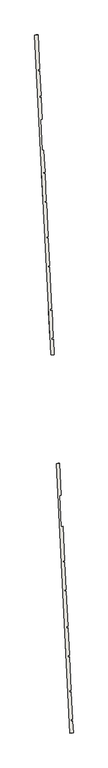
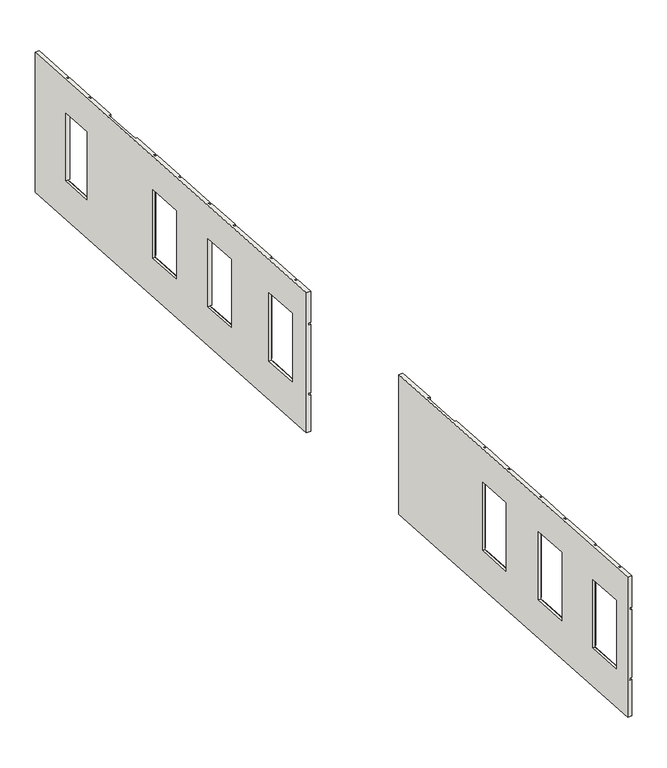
"""IFC4 building model written with IfcOpenShell, lengths in millimetres: wall geometry, kamposite8 : kamposite."""

from ifc_helpers import new_model, si_unit, origin, place, context, project, spatial, faceted_brep, source, transform, mapped, element, save


def wall_72c79ef7(model_context):
    return source(origin(), model_context, "Body", "Brep", [
        faceted_brep([(13372.7715568, -13203.3324529, 20000.0), (13353.306831, -12820.9275904, 20000.0), (13353.306831, -12820.9275904, 20911.5733633), (13372.7715568, -13203.3324529, 20911.5733633), (13353.306831, -12820.9275904, 23500.0), (13372.7715568, -13203.3324529, 23500.0), (13372.7715568, -13203.3324529, 22720.5733633), (13353.306831, -12820.9275904, 22720.5733633), (13094.4833823, -7736.0706906, 23500.0), (13139.1735864, -8614.0564136, 23500.0), (13139.1735864, -8614.0564136, 22720.5733633), (13094.4833823, -7736.0706906, 22720.5733633), (13141.7153374, -8663.9917669, 23500.0), (13199.2035253, -9793.4072435, 23500.0), (13199.2035253, -9793.4072435, 22720.5733633), (13141.7153374, -8663.9917669, 22720.5733633), (13201.7452764, -9843.3425967, 23500.0), (13246.4354805, -10721.3283197, 23500.0), (13246.4354805, -10721.3283197, 22720.5733633), (13201.7452764, -9843.3425967, 22720.5733633), (13248.9772315, -10771.2636729, 23500.0), (13303.5331248, -11843.0711609, 23500.0), (13303.5331248, -11843.0711609, 22720.5733633), (13248.9772315, -10771.2636729, 22720.5733633), (13306.0748759, -11893.0065142, 23500.0), (13350.76508, -12770.9922372, 23500.0), (13350.76508, -12770.9922372, 22720.5733633), (13306.0748759, -11893.0065142, 22720.5733633), (13139.1735864, -8614.0564136, 20000.0), (13094.4833823, -7736.0706906, 20000.0), (13094.4833823, -7736.0706906, 20911.5733633), (13139.1735864, -8614.0564136, 20911.5733633), (13199.2035253, -9793.4072435, 20000.0), (13141.7153374, -8663.9917669, 20000.0), (13141.7153374, -8663.9917669, 20911.5733633), (13199.2035253, -9793.4072435, 20911.5733633), (13246.4354805, -10721.3283197, 20000.0), (13201.7452764, -9843.3425967, 20000.0), (13201.7452764, -9843.3425967, 20911.5733633), (13246.4354805, -10721.3283197, 20911.5733633), (13303.5331248, -11843.0711609, 20000.0), (13248.9772315, -10771.2636729, 20000.0), (13248.9772315, -10771.2636729, 20911.5733633), (13303.5331248, -11843.0711609, 20911.5733633), (13350.76508, -12770.9922372, 20000.0), (13306.0748759, -11893.0065142, 20000.0), (13306.0748759, -11893.0065142, 20911.5733633), (13350.76508, -12770.9922372, 20911.5733633), (13350.6602996, -12768.9337164, 22670.0), (13306.0748759, -11893.0065142, 22670.0), (13306.0748759, -11893.0065142, 22670.5733633), (13350.76508, -12770.9922372, 22670.5733633), (13350.76508, -12770.9922372, 20961.5733633), (13350.6602996, -12768.9337164, 20961.5733633), (13246.4354805, -10721.3283197, 22670.0), (13201.7452764, -9843.3425967, 22670.0), (13201.7452764, -9843.3425967, 22670.5733633), (13246.4354805, -10721.3283197, 22670.5733633), (13139.1735864, -8614.0564136, 22670.0), (13094.4833823, -7736.0706906, 22670.0), (13094.4833823, -7736.0706906, 22670.5733633), (13139.1735864, -8614.0564136, 22670.5733633), (12933.6170031, -4575.6827045, 20000.0), (12933.6170031, -4575.6827045, 20911.5733633), (12985.7398324, -5599.6901091, 20911.5733633), (12985.7398324, -5599.6901091, 20000.0), (12933.6170031, -4575.6827045, 22720.5733633), (12933.6170031, -4575.6827045, 23500.0), (12985.7398324, -5599.6901091, 23500.0), (12985.7398324, -5599.6901091, 22720.5733633), (12933.6170031, -4575.6827045, 20961.5733633), (12933.6170031, -4575.6827045, 22670.5733633), (12985.7398324, -5599.6901091, 22670.5733633), (12985.7398324, -5599.6901091, 20961.5733633), (13091.9416312, -7686.1353374, 20911.5733633), (13091.9416312, -7686.1353374, 20000.0), (13036.3776474, -6594.5228575, 20000.0), (13036.3776474, -6594.5228575, 20911.5733633), (13091.9416312, -7686.1353374, 23500.0), (13091.9416312, -7686.1353374, 22720.5733633), (13036.3776474, -6594.5228575, 22720.5733633), (13036.3776474, -6594.5228575, 23500.0), (13091.9416312, -7686.1353374, 22670.5733633), (13091.9416312, -7686.1353374, 20961.5733633), (13036.3776474, -6594.5228575, 20961.5733633), (13036.3776474, -6594.5228575, 22670.5733633), (13199.2035253, -9793.4072435, 22670.5733633), (13199.2035253, -9793.4072435, 20961.5733633), (13141.7153374, -8663.9917669, 20961.5733633), (13141.7153374, -8663.9917669, 22670.5733633), (13303.5331248, -11843.0711609, 22670.5733633), (13303.5331248, -11843.0711609, 20961.5733633), (13248.9772315, -10771.2636729, 20961.5733633), (13248.9772315, -10771.2636729, 22670.5733633), (13372.7715568, -13203.3324529, 22670.5733633), (13372.7715568, -13203.3324529, 20961.5733633), (13353.306831, -12820.9275904, 20961.5733633), (13353.306831, -12820.9275904, 22670.5733633), (12833.7462967, -4580.7662066, 23500.0), (12833.7462967, -4580.7662066, 20000.0), (13272.9008504, -13208.415955, 20000.0), (13272.9008504, -13208.415955, 23500.0), (13206.0547747, -11895.1550017, 22670.0), (13250.7895931, -12774.0172185, 22670.0), (13250.7895931, -12774.0172185, 20960.0), (13206.0547747, -11895.1550017, 20960.0), (13101.8429819, -9847.8055195, 22670.0), (13146.5778003, -10726.6677363, 22670.0), (13146.5778003, -10726.6677363, 20960.0), (13101.8429819, -9847.8055195, 20960.0), (12994.5810878, -7740.5336135, 22670.0), (13039.3159062, -8619.3958302, 22670.0), (13039.3159062, -8619.3958302, 20960.0), (12994.5810878, -7740.5336135, 20960.0), (13303.3714778, -12823.4693414, 23500.0), (13300.8297268, -12773.5339882, 23500.0), (13256.1395226, -11895.5482652, 23500.0), (13253.5977716, -11845.612912, 23500.0), (13199.0418783, -10773.805424, 23500.0), (13196.5001272, -10723.8700707, 23500.0), (13151.8099231, -9845.8843478, 23500.0), (13149.2681721, -9795.9489945, 23500.0), (13091.7799842, -8666.5335179, 23500.0), (13089.2382332, -8616.5981647, 23500.0), (13044.5480291, -7738.6124417, 23500.0), (13042.006278, -7688.6770885, 23500.0), (12986.4422941, -6597.0646086, 23500.0), (12935.8044792, -5602.2318601, 23500.0), (13322.8362036, -13205.874204, 20911.5733633), (13322.8362036, -13205.874204, 20961.5733633), (13322.8362036, -13205.874204, 22670.5733633), (13322.8362036, -13205.874204, 22720.5733633), (12935.8044792, -5602.2318601, 20000.0), (12986.4422941, -6597.0646086, 20000.0), (13042.006278, -7688.6770885, 20000.0), (13044.5480291, -7738.6124417, 20000.0), (13089.2382332, -8616.5981647, 20000.0), (13091.7799842, -8666.5335179, 20000.0), (13149.2681721, -9795.9489945, 20000.0), (13151.8099231, -9845.8843478, 20000.0), (13196.5001272, -10723.8700707, 20000.0), (13199.0418783, -10773.805424, 20000.0), (13253.5977716, -11845.612912, 20000.0), (13256.1395226, -11895.5482652, 20000.0), (13300.8297268, -12773.5339882, 20000.0), (13303.3714778, -12823.4693414, 20000.0), (12883.6816499, -4578.2244556, 22720.5733633), (12883.6816499, -4578.2244556, 22670.5733633), (12883.6816499, -4578.2244556, 20961.5733633), (12883.6816499, -4578.2244556, 20911.5733633), (13255.9901279, -11892.6132507, 20960.0), (13255.9901279, -11892.6132507, 22670.0), (13300.7249463, -12771.4754674, 20960.0), (13300.7249463, -12771.4754674, 20961.5733633), (13256.1395226, -11895.5482652, 22670.0), (13151.7783351, -9845.2637685, 20960.0), (13151.7783351, -9845.2637685, 22670.0), (13196.5131535, -10724.1259852, 20960.0), (13196.5131535, -10724.1259852, 22670.0), (13151.8099231, -9845.8843478, 22670.0), (13196.5001272, -10723.8700707, 22670.0), (13044.5164411, -7737.9918624, 20960.0), (13044.5164411, -7737.9918624, 22670.0), (13089.2512594, -8616.8540792, 20960.0), (13089.2512594, -8616.8540792, 22670.0), (13044.5480291, -7738.6124417, 22670.0), (13089.2382332, -8616.5981647, 22670.0), (13044.5480291, -7738.6124417, 22720.5733633), (13089.2382332, -8616.5981647, 22720.5733633), (13091.7799842, -8666.5335179, 22720.5733633), (13149.2681721, -9795.9489945, 22720.5733633), (13151.8099231, -9845.8843478, 22720.5733633), (13196.5001272, -10723.8700707, 22720.5733633), (13199.0418783, -10773.805424, 22720.5733633), (13253.5977716, -11845.612912, 22720.5733633), (13256.1395226, -11895.5482652, 22720.5733633), (13300.8297268, -12773.5339882, 22720.5733633), (13303.3714778, -12823.4693414, 22720.5733633), (13303.3714778, -12823.4693414, 22670.5733633), (13303.3714778, -12823.4693414, 20961.5733633), (13303.3714778, -12823.4693414, 20911.5733633), (13300.8297268, -12773.5339882, 20911.5733633), (13256.1395226, -11895.5482652, 20911.5733633), (13253.5977716, -11845.612912, 20911.5733633), (13199.0418783, -10773.805424, 20911.5733633), (13196.5001272, -10723.8700707, 20911.5733633), (13151.8099231, -9845.8843478, 20911.5733633), (13149.2681721, -9795.9489945, 20911.5733633), (13091.7799842, -8666.5335179, 20911.5733633), (13089.2382332, -8616.5981647, 20911.5733633), (13044.5480291, -7738.6124417, 20911.5733633), (13042.006278, -7688.6770885, 20911.5733633), (12986.4422941, -6597.0646086, 20911.5733633), (12935.8044792, -5602.2318601, 20911.5733633), (12935.8044792, -5602.2318601, 20961.5733633), (12935.8044792, -5602.2318601, 22670.5733633), (12935.8044792, -5602.2318601, 22720.5733633), (12986.4422941, -6597.0646086, 22720.5733633), (13042.006278, -7688.6770885, 22720.5733633), (13300.8297268, -12773.5339882, 20961.5733633), (13300.8297268, -12773.5339882, 22670.5733633), (13256.1395226, -11895.5482652, 22670.5733633), (13196.5001272, -10723.8700707, 22670.5733633), (13151.8099231, -9845.8843478, 22670.5733633), (13089.2382332, -8616.5981647, 22670.5733633), (13044.5480291, -7738.6124417, 22670.5733633), (13091.7799842, -8666.5335179, 22670.5733633), (13091.7799842, -8666.5335179, 20961.5733633), (13149.2681721, -9795.9489945, 20961.5733633), (13149.2681721, -9795.9489945, 22670.5733633), (13199.0418783, -10773.805424, 22670.5733633), (13199.0418783, -10773.805424, 20961.5733633), (13253.5977716, -11845.612912, 20961.5733633), (13253.5977716, -11845.612912, 22670.5733633), (13042.006278, -7688.6770885, 22670.5733633), (12986.4422941, -6597.0646086, 22670.5733633), (12986.4422941, -6597.0646086, 20961.5733633), (13042.006278, -7688.6770885, 20961.5733633)], [[[0, 1, 2, 3]], [[4, 5, 6, 7]], [[8, 9, 10, 11]], [[12, 13, 14, 15]], [[16, 17, 18, 19]], [[20, 21, 22, 23]], [[24, 25, 26, 27]], [[28, 29, 30, 31]], [[32, 33, 34, 35]], [[36, 37, 38, 39]], [[40, 41, 42, 43]], [[44, 45, 46, 47]], [[48, 49, 50, 51, 52, 53]], [[54, 55, 56, 57]], [[58, 59, 60, 61]], [[62, 63, 64, 65]], [[66, 67, 68, 69]], [[70, 71, 72, 73]], [[74, 75, 76, 77]], [[78, 79, 80, 81]], [[82, 83, 84, 85]], [[86, 87, 88, 89]], [[90, 91, 92, 93]], [[94, 95, 96, 97]], [[98, 99, 100, 101], [102, 103, 104, 105], [106, 107, 108, 109], [110, 111, 112, 113]], [[98, 101, 5, 4, 114, 115, 25, 24, 116, 117, 21, 20, 118, 119, 17, 16, 120, 121, 13, 12, 122, 123, 9, 8, 124, 125, 78, 81, 126, 127, 68, 67]], [[101, 100, 0, 3, 128, 129, 95, 94, 130, 131, 6, 5]], [[100, 99, 62, 65, 132, 133, 76, 75, 134, 135, 29, 28, 136, 137, 33, 32, 138, 139, 37, 36, 140, 141, 41, 40, 142, 143, 45, 44, 144, 145, 1, 0]], [[99, 98, 67, 66, 146, 147, 71, 70, 148, 149, 63, 62]], [[102, 105, 150, 151]], [[105, 104, 152, 150]], [[104, 103, 48, 53, 153, 152]], [[103, 102, 151, 154, 49, 48]], [[106, 109, 155, 156]], [[109, 108, 157, 155]], [[108, 107, 158, 157]], [[107, 106, 156, 159, 55, 54, 160, 158]], [[110, 113, 161, 162]], [[113, 112, 163, 161]], [[112, 111, 164, 163]], [[111, 110, 162, 165, 59, 58, 166, 164]], [[125, 124, 167, 168, 123, 122, 169, 170, 121, 120, 171, 172, 119, 118, 173, 174, 117, 116, 175, 176, 115, 114, 177, 131, 130, 178, 179, 129, 128, 180, 145, 144, 181, 182, 143, 142, 183, 184, 141, 140, 185, 186, 139, 138, 187, 188, 137, 136, 189, 190, 135, 134, 191, 192, 133, 132, 193, 149, 148, 194, 195, 147, 146, 196, 127, 126, 197, 198], [154, 151, 150, 152, 153, 199, 200, 201], [159, 156, 155, 157, 158, 160, 202, 203], [165, 162, 161, 163, 164, 166, 204, 205], [206, 207, 208, 209], [210, 211, 212, 213], [214, 215, 216, 217]], [[124, 8, 11, 167]], [[29, 135, 190, 30]], [[59, 165, 205, 60]], [[83, 82, 214, 217]], [[78, 125, 198, 79]], [[134, 75, 74, 191]], [[89, 88, 207, 206]], [[122, 12, 15, 169]], [[33, 137, 188, 34]], [[9, 123, 168, 10]], [[136, 28, 31, 189]], [[166, 58, 61, 204]], [[120, 16, 19, 171]], [[37, 139, 186, 38]], [[55, 159, 203, 56]], [[87, 86, 209, 208]], [[13, 121, 170, 14]], [[138, 32, 35, 187]], [[93, 92, 211, 210]], [[118, 20, 23, 173]], [[41, 141, 184, 42]], [[17, 119, 172, 18]], [[140, 36, 39, 185]], [[160, 54, 57, 202]], [[116, 24, 27, 175]], [[45, 143, 182, 46]], [[49, 154, 201, 50]], [[91, 90, 213, 212]], [[21, 117, 174, 22]], [[142, 40, 43, 183]], [[97, 96, 179, 178]], [[114, 4, 7, 177]], [[1, 145, 180, 2]], [[52, 51, 200, 199]], [[25, 115, 176, 26]], [[144, 44, 47, 181]], [[148, 70, 73, 194]], [[199, 153, 53, 52]], [[208, 207, 88, 87]], [[212, 211, 92, 91]], [[83, 217, 216, 84]], [[129, 179, 96, 95]], [[63, 149, 193, 64]], [[182, 181, 47, 46]], [[184, 183, 43, 42]], [[186, 185, 39, 38]], [[188, 187, 35, 34]], [[190, 189, 31, 30]], [[191, 74, 77, 192]], [[180, 128, 3, 2]], [[146, 66, 69, 196]], [[168, 167, 11, 10]], [[170, 169, 15, 14]], [[172, 171, 19, 18]], [[174, 173, 23, 22]], [[176, 175, 27, 26]], [[79, 198, 197, 80]], [[131, 177, 7, 6]], [[71, 147, 195, 72]], [[201, 200, 51, 50]], [[203, 202, 57, 56]], [[205, 204, 61, 60]], [[206, 209, 86, 89]], [[210, 213, 90, 93]], [[214, 82, 85, 215]], [[178, 130, 94, 97]], [[133, 192, 77, 76]], [[197, 126, 81, 80]], [[216, 215, 85, 84]], [[193, 132, 65, 64]], [[195, 194, 73, 72]], [[127, 196, 69, 68]]]),
        faceted_brep([(12334.7985206, 7188.7316375, 22660.0), (12294.384679, 7982.7037538, 22660.0), (12294.384679, 7982.7037538, 20961.5733633), (12294.2460013, 7985.4282216, 20961.5733633), (12294.2460013, 7985.4282216, 22670.5733633), (12334.8694038, 7187.3390638, 22670.5733633), (12334.8694038, 7187.3390638, 20961.5733633), (12334.7985206, 7188.7316375, 20961.5733633), (12731.730894, -609.4192918, 23500.0), (12756.4224718, -1094.5111191, 23500.0), (12756.4224718, -1094.5111191, 22720.5733633), (12731.730894, -609.4192918, 22720.5733633), (12684.4989388, 318.5017844, 23500.0), (12729.1891429, -559.4839386, 23500.0), (12729.1891429, -559.4839386, 22720.5733633), (12684.4989388, 318.5017844, 22720.5733633), (12614.0478206, 1702.5875625, 23500.0), (12681.9571878, 368.4371376, 23500.0), (12681.9571878, 368.4371376, 22720.5733633), (12614.0478206, 1702.5875625, 22720.5733633), (12566.8158655, 2630.5086387, 23500.0), (12611.5060696, 1752.5229157, 23500.0), (12611.5060696, 1752.5229157, 22720.5733633), (12566.8158655, 2630.5086387, 22720.5733633), (12509.0735025, 3764.9176506, 23500.0), (12564.2741144, 2680.4439919, 23500.0), (12564.2741144, 2680.4439919, 22720.5733633), (12509.0735025, 3764.9176506, 22720.5733633), (12461.8415473, 4692.8387269, 23500.0), (12506.5317514, 3814.8530039, 23500.0), (12506.5317514, 3814.8530039, 22720.5733633), (12461.8415473, 4692.8387269, 22720.5733633), (12235.5361304, 9138.844937, 23500.0), (12291.7042503, 8035.3635748, 23500.0), (12291.7042503, 8035.3635748, 22720.5733633), (12235.5361304, 9138.844937, 22720.5733633), (12294.2460013, 7985.4282216, 23500.0), (12334.8694038, 7187.3390638, 23500.0), (12334.8694038, 7187.3390638, 22720.5733633), (12294.2460013, 7985.4282216, 22720.5733633), (12756.4224718, -1094.5111191, 20000.0), (12731.730894, -609.4192918, 20000.0), (12731.730894, -609.4192918, 20911.5733633), (12756.4224718, -1094.5111191, 20911.5733633), (12729.1891429, -559.4839386, 20000.0), (12684.4989388, 318.5017844, 20000.0), (12684.4989388, 318.5017844, 20911.5733633), (12729.1891429, -559.4839386, 20911.5733633), (12681.9571878, 368.4371376, 20000.0), (12614.0478206, 1702.5875625, 20000.0), (12614.0478206, 1702.5875625, 20911.5733633), (12681.9571878, 368.4371376, 20911.5733633), (12611.5060696, 1752.5229157, 20000.0), (12566.8158655, 2630.5086387, 20000.0), (12566.8158655, 2630.5086387, 20911.5733633), (12611.5060696, 1752.5229157, 20911.5733633), (12564.2741144, 2680.4439919, 20000.0), (12509.0735025, 3764.9176506, 20000.0), (12509.0735025, 3764.9176506, 20911.5733633), (12564.2741144, 2680.4439919, 20911.5733633), (12506.5317514, 3814.8530039, 20000.0), (12461.8415473, 4692.8387269, 20000.0), (12461.8415473, 4692.8387269, 20911.5733633), (12506.5317514, 3814.8530039, 20911.5733633), (12291.7042503, 8035.3635748, 20000.0), (12235.5361304, 9138.844937, 20000.0), (12235.5361304, 9138.844937, 22670.5733633), (12291.7042503, 8035.3635748, 22670.5733633), (12291.7042503, 8035.3635748, 20961.5733633), (12235.558487, 9138.4057197, 20961.5733633), (12235.558487, 9138.4057197, 20911.5733633), (12291.7042503, 8035.3635748, 20911.5733633), (12334.8694038, 7187.3390638, 20000.0), (12294.2460013, 7985.4282216, 20000.0), (12294.2460013, 7985.4282216, 20911.5733633), (12334.8694038, 7187.3390638, 20911.5733633), (12729.1891429, -559.4839386, 22670.0), (12684.4989388, 318.5017844, 22670.0), (12684.4989388, 318.5017844, 22670.5733633), (12729.1891429, -559.4839386, 22670.5733633), (12611.5060696, 1752.5229157, 22670.0), (12567.0384526, 2626.1356827, 22670.0), (12567.0384526, 2626.1356827, 20961.5733633), (12566.8158655, 2630.5086387, 20961.5733633), (12566.8158655, 2630.5086387, 22670.5733633), (12611.5060696, 1752.5229157, 22670.5733633), (12506.5317514, 3814.8530039, 22670.0), (12461.8415473, 4692.8387269, 22670.0), (12461.8415473, 4692.8387269, 22670.5733633), (12506.5317514, 3814.8530039, 22670.5733633), (12756.4224718, -1094.5111191, 22670.5733633), (12756.4224718, -1094.5111191, 20961.5733633), (12731.730894, -609.4192918, 20961.5733633), (12731.730894, -609.4192918, 22670.5733633), (12681.9571878, 368.4371376, 22670.5733633), (12681.9571878, 368.4371376, 20961.5733633), (12614.0478206, 1702.5875625, 20961.5733633), (12614.0478206, 1702.5875625, 22670.5733633), (12564.2741144, 2680.4439919, 22670.5733633), (12564.2741144, 2680.4439919, 20961.5733633), (12509.0735025, 3764.9176506, 20961.5733633), (12509.0735025, 3764.9176506, 22670.5733633), (12459.2997963, 4742.7740801, 20911.5733633), (12459.2997963, 4742.7740801, 20000.0), (12423.674383, 5442.6725211, 20000.0), (12423.674383, 5442.6725211, 20911.5733633), (12459.2997963, 4742.7740801, 22670.5733633), (12459.2997963, 4742.7740801, 20961.5733633), (12423.674383, 5442.6725211, 20961.5733633), (12423.674383, 5442.6725211, 22670.5733633), (12459.2997963, 4742.7740801, 23500.0), (12459.2997963, 4742.7740801, 22720.5733633), (12423.674383, 5442.6725211, 22720.5733633), (12423.674383, 5442.6725211, 23500.0), (12337.4111548, 7137.4037105, 20000.0), (12337.4111548, 7137.4037105, 20911.5733633), (12373.0365681, 6437.5052695, 20911.5733633), (12373.0365681, 6437.5052695, 20000.0), (12337.4111548, 7137.4037105, 20961.5733633), (12337.4111548, 7137.4037105, 22670.5733633), (12373.0365681, 6437.5052695, 22670.5733633), (12373.0365681, 6437.5052695, 20961.5733633), (12337.4111548, 7137.4037105, 22720.5733633), (12337.4111548, 7137.4037105, 23500.0), (12373.0365681, 6437.5052695, 23500.0), (12373.0365681, 6437.5052695, 22720.5733633), (12135.665424, 9133.7614349, 23500.0), (12135.665424, 9133.7614349, 20000.0), (12656.5517653, -1099.5946212, 20000.0), (12656.5517653, -1099.5946212, 23500.0), (12194.5139726, 7977.6202517, 22660.0), (12234.9278142, 7183.6481354, 22660.0), (12234.9278142, 7183.6481354, 20960.0), (12194.5139726, 7977.6202517, 20960.0), (12584.5966444, 314.0388616, 22670.0), (12629.3314627, -564.8233551, 22670.0), (12629.3314627, -564.8233551, 20960.0), (12584.5966444, 314.0388616, 20960.0), (12467.1677461, 2621.0521806, 22670.0), (12511.9025645, 1742.1899638, 22670.0), (12511.9025645, 1742.1899638, 20960.0), (12467.1677461, 2621.0521806, 20960.0), (12361.9392529, 4688.375804, 22670.0), (12406.6740712, 3809.5135873, 22670.0), (12406.6740712, 3809.5135873, 20960.0), (12361.9392529, 4688.375804, 20960.0), (12681.7955408, -611.9610428, 23500.0), (12679.2537897, -562.0256896, 23500.0), (12634.5635856, 315.9600334, 23500.0), (12632.0218345, 365.8953866, 23500.0), (12564.1124674, 1700.0458114, 23500.0), (12561.5707163, 1749.9811647, 23500.0), (12516.8805122, 2627.9668877, 23500.0), (12514.3387612, 2677.9022409, 23500.0), (12459.1381493, 3762.3758996, 23500.0), (12456.5963982, 3812.3112528, 23500.0), (12411.9061941, 4690.2969758, 23500.0), (12409.364443, 4740.232329, 23500.0), (12373.7390298, 5440.13077, 23500.0), (12323.1012148, 6434.9635185, 23500.0), (12287.4758016, 7134.8619595, 23500.0), (12284.9340506, 7184.7973127, 23500.0), (12244.3106481, 7982.8864705, 23500.0), (12241.7688971, 8032.8218238, 23500.0), (12706.4871185, -1097.0528701, 20911.5733633), (12706.4871185, -1097.0528701, 20961.5733633), (12706.4871185, -1097.0528701, 22670.5733633), (12706.4871185, -1097.0528701, 22720.5733633), (12241.7688971, 8032.8218238, 20000.0), (12244.3106481, 7982.8864705, 20000.0), (12284.9340506, 7184.7973127, 20000.0), (12287.4758016, 7134.8619595, 20000.0), (12323.1012148, 6434.9635185, 20000.0), (12373.7390298, 5440.13077, 20000.0), (12409.364443, 4740.232329, 20000.0), (12411.9061941, 4690.2969758, 20000.0), (12456.5963982, 3812.3112528, 20000.0), (12459.1381493, 3762.3758996, 20000.0), (12514.3387612, 2677.9022409, 20000.0), (12516.8805122, 2627.9668877, 20000.0), (12561.5707163, 1749.9811647, 20000.0), (12564.1124674, 1700.0458114, 20000.0), (12632.0218345, 365.8953866, 20000.0), (12634.5635856, 315.9600334, 20000.0), (12679.2537897, -562.0256896, 20000.0), (12681.7955408, -611.9610428, 20000.0), (12185.6007772, 9136.3031859, 22720.5733633), (12185.6007772, 9136.3031859, 22670.5733633), (12244.4493258, 7980.1620027, 20960.0), (12244.4493258, 7980.1620027, 20961.5733633), (12284.8631674, 7186.1898865, 20960.0), (12284.8631674, 7186.1898865, 20961.5733633), (12634.5319976, 316.5806127, 20960.0), (12634.5319976, 316.5806127, 22670.0), (12679.266816, -562.2816041, 20960.0), (12679.266816, -562.2816041, 22670.0), (12634.5635856, 315.9600334, 22670.0), (12679.2537897, -562.0256896, 22670.0), (12517.1030993, 2623.5939316, 20960.0), (12517.1030993, 2623.5939316, 20961.5733633), (12561.8379177, 1744.7317149, 20960.0), (12561.8379177, 1744.7317149, 22670.0), (12561.5707163, 1749.9811647, 22670.0), (12411.8746061, 4690.9175551, 20960.0), (12411.8746061, 4690.9175551, 22670.0), (12456.6094245, 3812.0553383, 20960.0), (12456.6094245, 3812.0553383, 22670.0), (12411.9061941, 4690.2969758, 22670.0), (12456.5963982, 3812.3112528, 22670.0), (12634.5635856, 315.9600334, 22720.5733633), (12679.2537897, -562.0256896, 22720.5733633), (12681.7955408, -611.9610428, 22720.5733633), (12681.7955408, -611.9610428, 22670.5733633), (12681.7955408, -611.9610428, 20961.5733633), (12681.7955408, -611.9610428, 20911.5733633), (12679.2537897, -562.0256896, 20911.5733633), (12634.5635856, 315.9600334, 20911.5733633), (12632.0218345, 365.8953866, 20911.5733633), (12564.1124674, 1700.0458114, 20911.5733633), (12561.5707163, 1749.9811647, 20911.5733633), (12516.8805122, 2627.9668877, 20911.5733633), (12514.3387612, 2677.9022409, 20911.5733633), (12459.1381493, 3762.3758996, 20911.5733633), (12456.5963982, 3812.3112528, 20911.5733633), (12411.9061941, 4690.2969758, 20911.5733633), (12409.364443, 4740.232329, 20911.5733633), (12373.7390298, 5440.13077, 20911.5733633), (12323.1012148, 6434.9635185, 20911.5733633), (12287.4758016, 7134.8619595, 20911.5733633), (12284.9340506, 7184.7973127, 20911.5733633), (12244.3106481, 7982.8864705, 20911.5733633), (12241.7688971, 8032.8218238, 20911.5733633), (12185.6231337, 9135.8639687, 20911.5733633), (12185.6231337, 9135.8639687, 20961.5733633), (12241.7688971, 8032.8218238, 20961.5733633), (12241.7688971, 8032.8218238, 22670.5733633), (12241.7688971, 8032.8218238, 22720.5733633), (12244.3106481, 7982.8864705, 22720.5733633), (12284.9340506, 7184.7973127, 22720.5733633), (12287.4758016, 7134.8619595, 22720.5733633), (12323.1012148, 6434.9635185, 22720.5733633), (12373.7390298, 5440.13077, 22720.5733633), (12409.364443, 4740.232329, 22720.5733633), (12411.9061941, 4690.2969758, 22720.5733633), (12456.5963982, 3812.3112528, 22720.5733633), (12459.1381493, 3762.3758996, 22720.5733633), (12514.3387612, 2677.9022409, 22720.5733633), (12516.8805122, 2627.9668877, 22720.5733633), (12561.5707163, 1749.9811647, 22720.5733633), (12564.1124674, 1700.0458114, 22720.5733633), (12632.0218345, 365.8953866, 22720.5733633), (12679.2537897, -562.0256896, 22670.5733633), (12634.5635856, 315.9600334, 22670.5733633), (12561.5707163, 1749.9811647, 22670.5733633), (12516.8805122, 2627.9668877, 22670.5733633), (12516.8805122, 2627.9668877, 20961.5733633), (12456.5963982, 3812.3112528, 22670.5733633), (12411.9061941, 4690.2969758, 22670.5733633), (12632.0218345, 365.8953866, 20961.5733633), (12632.0218345, 365.8953866, 22670.5733633), (12564.1124674, 1700.0458114, 22670.5733633), (12564.1124674, 1700.0458114, 20961.5733633), (12514.3387612, 2677.9022409, 20961.5733633), (12514.3387612, 2677.9022409, 22670.5733633), (12459.1381493, 3762.3758996, 22670.5733633), (12459.1381493, 3762.3758996, 20961.5733633), (12409.364443, 4740.232329, 20961.5733633), (12409.364443, 4740.232329, 22670.5733633), (12373.7390298, 5440.13077, 22670.5733633), (12373.7390298, 5440.13077, 20961.5733633), (12244.3106481, 7982.8864705, 22670.5733633), (12244.3106481, 7982.8864705, 20961.5733633), (12284.9340506, 7184.7973127, 20961.5733633), (12284.9340506, 7184.7973127, 22670.5733633), (12287.4758016, 7134.8619595, 20961.5733633), (12323.1012148, 6434.9635185, 20961.5733633), (12323.1012148, 6434.9635185, 22670.5733633), (12287.4758016, 7134.8619595, 22670.5733633)], [[[0, 1, 2, 3, 4, 5, 6, 7]], [[8, 9, 10, 11]], [[12, 13, 14, 15]], [[16, 17, 18, 19]], [[20, 21, 22, 23]], [[24, 25, 26, 27]], [[28, 29, 30, 31]], [[32, 33, 34, 35]], [[36, 37, 38, 39]], [[40, 41, 42, 43]], [[44, 45, 46, 47]], [[48, 49, 50, 51]], [[52, 53, 54, 55]], [[56, 57, 58, 59]], [[60, 61, 62, 63]], [[64, 65, 66, 67, 68, 69, 70, 71]], [[72, 73, 74, 75]], [[76, 77, 78, 79]], [[80, 81, 82, 83, 84, 85]], [[86, 87, 88, 89]], [[90, 91, 92, 93]], [[94, 95, 96, 97]], [[98, 99, 100, 101]], [[102, 103, 104, 105]], [[106, 107, 108, 109]], [[110, 111, 112, 113]], [[114, 115, 116, 117]], [[118, 119, 120, 121]], [[122, 123, 124, 125]], [[126, 127, 128, 129], [130, 131, 132, 133], [134, 135, 136, 137], [138, 139, 140, 141], [142, 143, 144, 145]], [[126, 129, 9, 8, 146, 147, 13, 12, 148, 149, 17, 16, 150, 151, 21, 20, 152, 153, 25, 24, 154, 155, 29, 28, 156, 157, 110, 113, 158, 159, 124, 123, 160, 161, 37, 36, 162, 163, 33, 32]], [[129, 128, 40, 43, 164, 165, 91, 90, 166, 167, 10, 9]], [[128, 127, 65, 64, 168, 169, 73, 72, 170, 171, 114, 117, 172, 173, 104, 103, 174, 175, 61, 60, 176, 177, 57, 56, 178, 179, 53, 52, 180, 181, 49, 48, 182, 183, 45, 44, 184, 185, 41, 40]], [[127, 126, 32, 35, 186, 187, 66, 65]], [[130, 133, 188, 189, 2, 1]], [[133, 132, 190, 188]], [[132, 131, 0, 7, 191, 190]], [[1, 0, 131, 130]], [[134, 137, 192, 193]], [[137, 136, 194, 192]], [[136, 135, 195, 194]], [[135, 134, 193, 196, 77, 76, 197, 195]], [[138, 141, 198, 199, 82, 81]], [[141, 140, 200, 198]], [[140, 139, 201, 200]], [[139, 138, 81, 80, 202, 201]], [[142, 145, 203, 204]], [[145, 144, 205, 203]], [[144, 143, 206, 205]], [[143, 142, 204, 207, 87, 86, 208, 206]], [[149, 148, 209, 210, 147, 146, 211, 167, 166, 212, 213, 165, 164, 214, 185, 184, 215, 216, 183, 182, 217, 218, 181, 180, 219, 220, 179, 178, 221, 222, 177, 176, 223, 224, 175, 174, 225, 226, 173, 172, 227, 228, 171, 170, 229, 230, 169, 168, 231, 232, 233, 234, 235, 187, 186, 236, 163, 162, 237, 238, 161, 160, 239, 240, 159, 158, 241, 242, 157, 156, 243, 244, 155, 154, 245, 246, 153, 152, 247, 248, 151, 150, 249, 250], [196, 193, 192, 194, 195, 197, 251, 252], [201, 202, 253, 254, 255, 199, 198, 200], [207, 204, 203, 205, 206, 208, 256, 257], [258, 259, 260, 261], [262, 263, 264, 265], [266, 267, 268, 269], [270, 271, 189, 188, 190, 191, 272, 273], [274, 275, 276, 277]], [[148, 12, 15, 209]], [[45, 183, 216, 46]], [[77, 196, 252, 78]], [[95, 94, 259, 258]], [[17, 149, 250, 18]], [[182, 48, 51, 217]], [[93, 92, 213, 212]], [[146, 8, 11, 211]], [[41, 185, 214, 42]], [[13, 147, 210, 14]], [[184, 44, 47, 215]], [[197, 76, 79, 251]], [[84, 83, 255, 254]], [[152, 20, 23, 247]], [[53, 179, 220, 54]], [[99, 98, 263, 262]], [[25, 153, 246, 26]], [[178, 56, 59, 221]], [[97, 96, 261, 260]], [[150, 16, 19, 249]], [[49, 181, 218, 50]], [[21, 151, 248, 22]], [[180, 52, 55, 219]], [[202, 80, 85, 253]], [[156, 28, 31, 243]], [[61, 175, 224, 62]], [[87, 207, 257, 88]], [[107, 106, 267, 266]], [[110, 157, 242, 111]], [[174, 103, 102, 225]], [[101, 100, 265, 264]], [[154, 24, 27, 245]], [[57, 177, 222, 58]], [[29, 155, 244, 30]], [[176, 60, 63, 223]], [[208, 86, 89, 256]], [[4, 3, 271, 270]], [[162, 36, 39, 237]], [[73, 169, 230, 74]], [[68, 67, 235, 234]], [[33, 163, 236, 34]], [[168, 64, 71, 231]], [[119, 118, 274, 277]], [[160, 123, 122, 239]], [[114, 171, 228, 115]], [[6, 5, 273, 272]], [[37, 161, 238, 38]], [[170, 72, 75, 229]], [[214, 164, 43, 42]], [[216, 215, 47, 46]], [[218, 217, 51, 50]], [[220, 219, 55, 54]], [[222, 221, 59, 58]], [[224, 223, 63, 62]], [[230, 229, 75, 74]], [[225, 102, 105, 226]], [[115, 228, 227, 116]], [[70, 232, 231, 71]], [[165, 213, 92, 91]], [[199, 255, 83, 82]], [[258, 261, 96, 95]], [[262, 265, 100, 99]], [[189, 271, 3, 2]], [[272, 191, 7, 6]], [[107, 266, 269, 108]], [[274, 118, 121, 275]], [[233, 69, 68, 234]], [[212, 166, 90, 93]], [[252, 251, 79, 78]], [[254, 253, 85, 84]], [[257, 256, 89, 88]], [[260, 259, 94, 97]], [[264, 263, 98, 101]], [[270, 273, 5, 4]], [[267, 106, 109, 268]], [[119, 277, 276, 120]], [[187, 235, 67, 66]], [[210, 209, 15, 14]], [[167, 211, 11, 10]], [[238, 237, 39, 38]], [[244, 243, 31, 30]], [[246, 245, 27, 26]], [[248, 247, 23, 22]], [[250, 249, 19, 18]], [[111, 242, 241, 112]], [[239, 122, 125, 240]], [[236, 186, 35, 34]], [[173, 226, 105, 104]], [[241, 158, 113, 112]], [[269, 268, 109, 108]], [[227, 172, 117, 116]], [[159, 240, 125, 124]], [[276, 275, 121, 120]], [[233, 232, 70, 69]]]),
    ])


if __name__ == "__main__":
    model = new_model("IFC4")
    model_context = context("Model", 3, world=origin())
    ifc_project = project(units=[si_unit("LENGTHUNIT", "METRE", prefix="MILLI")], contexts=[model_context])
    site = spatial("IfcSite", under=ifc_project)
    building = spatial("IfcBuilding", under=site)
    placement = place(None, origin())
    wall_shape = wall_72c79ef7(model_context)
    element("IfcWall", 1, ObjectType="kamposite8 : kamposite", at=placement, inside=building, context=model_context, shape_type="MappedRepresentation", body=[
        mapped(wall_shape, transform((0.0, 0.0, 0.0), x_axis=(1.0, 0.0, 0.0), y_axis=(0.0, 1.0, 0.0), z_axis=(0.0, 0.0, 1.0))),
    ])
    save(model, "model.ifc")
